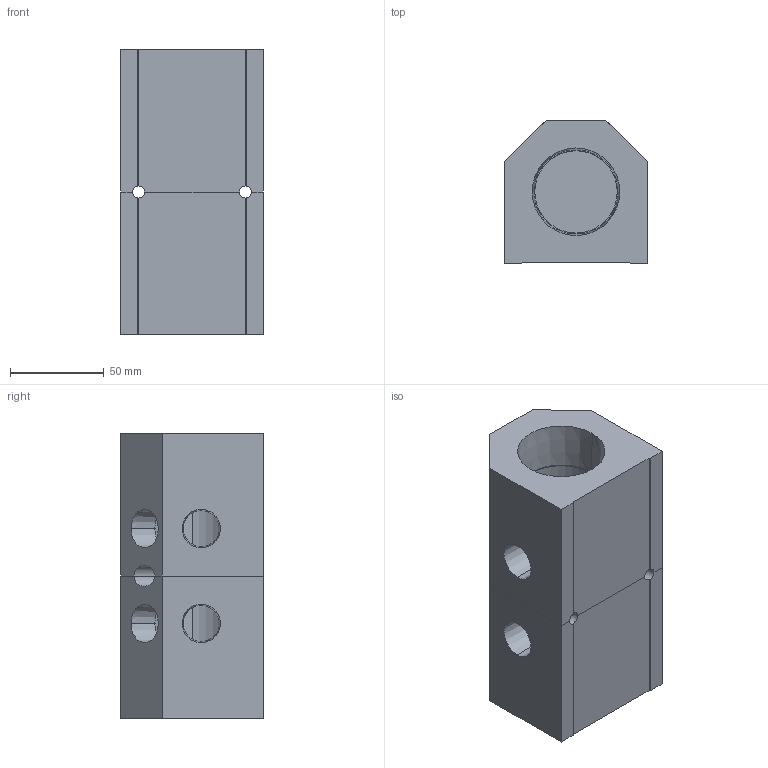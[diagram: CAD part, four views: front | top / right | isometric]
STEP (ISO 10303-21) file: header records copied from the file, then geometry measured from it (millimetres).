
FILE_DESCRIPTION (( 'STEP AP214' ), '1' );
FILE_NAME ('ALM2ABC-N8N24-152RB.step', '2022-02-07T09:39:22', ( '' ), ( '' ), 'SwSTEP 2.0', 'SolidWorks 2020', '' );
FILE_SCHEMA (( 'AUTOMOTIVE_DESIGN' ));
Length unit declared in the file: millimetre
Products named in the file (1): ALM2ABC-N8N24-152RB
Bounding box: 76.2 x 76.2 x 152 mm (x, y, z)
Volume: 531562.3 mm3; surface area: 88054.2 mm2
Topology: 2 solids, 2 shells, 356 faces, 955 edges, 636 vertices
Faces by surface type: plane 245, bspline 79, cylinder 16, cone 16
Entity records: 19730 total; most frequent: CARTESIAN_POINT 8085, ORIENTED_EDGE 1910, DIRECTION 1363, EDGE_CURVE 955, LINE 711, VECTOR 711, VERTEX_POINT 636, EDGE_LOOP 401
